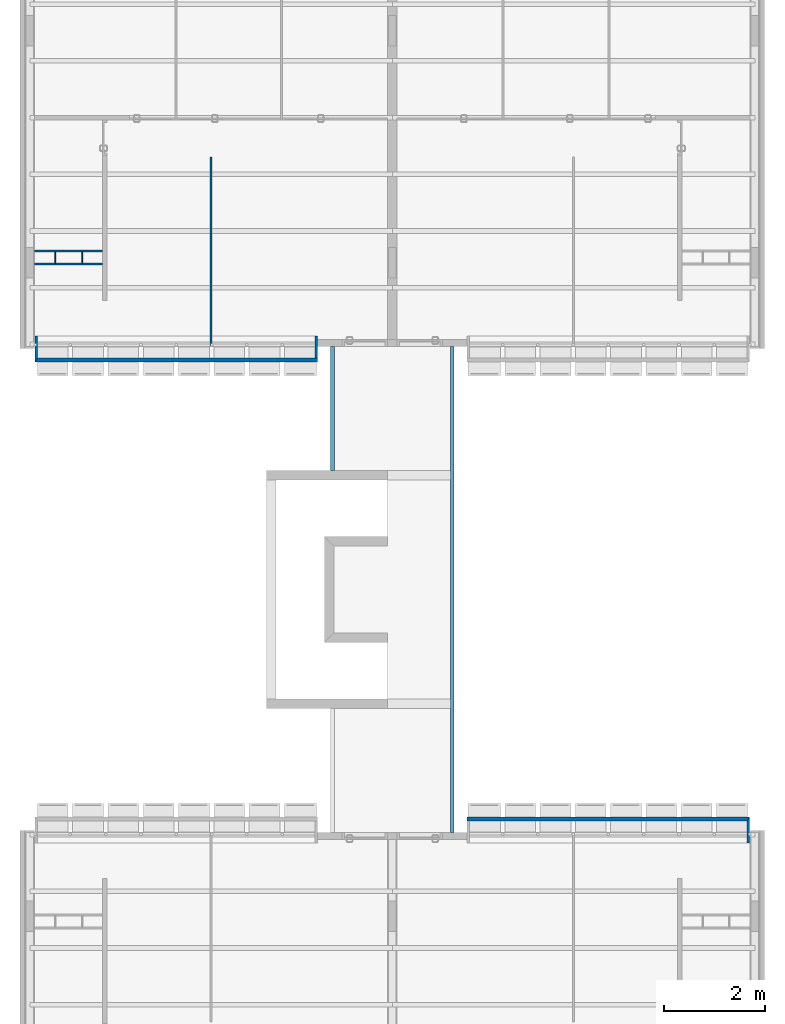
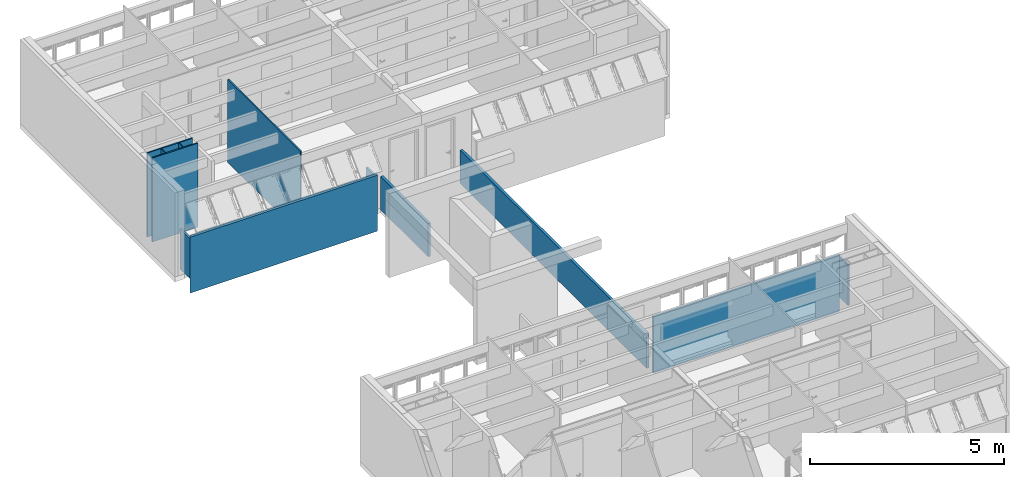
# One storey, part 30 of 40: 12 walls.
"""IFC4 building model written with IfcOpenShell, lengths in millimetres."""

from ifc_helpers import new_model, entity, si_unit, converted_unit, derived_unit, direction, frame, origin_with_axes, place, context, subcontext, project, spatial, line, indexed_curve, outline, extrude, material, layer, layer_set, layer_usage, type_object, element, save


model = new_model("IFC4")

# Units and contexts
model_context = context("Model", 3, precision=0.01, world=origin_with_axes(), true_north=direction((0.0, 1.0)))
body_context = subcontext(model_context, "Body", "Model", "MODEL_VIEW")
ifc_project = project(units=[si_unit("LENGTHUNIT", "METRE", prefix="MILLI"), si_unit("AREAUNIT", "SQUARE_METRE"), si_unit("VOLUMEUNIT", "CUBIC_METRE"), converted_unit("PLANEANGLEUNIT", "DEGREE", entity("IfcPlaneAngleMeasure", 0.0174532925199), si_unit("PLANEANGLEUNIT", "RADIAN"), dimensions=[0, 0, 0, 0, 0, 0, 0]), converted_unit("TIMEUNIT", "Year", entity("IfcTimeMeasure", 31556926.0), si_unit("TIMEUNIT", "SECOND"), dimensions=[0, 0, 1, 0, 0, 0, 0]), si_unit("MASSUNIT", "GRAM", prefix="KILO"), si_unit("THERMODYNAMICTEMPERATUREUNIT", "DEGREE_CELSIUS"), si_unit("LUMINOUSINTENSITYUNIT", "LUMEN"), si_unit("ENERGYUNIT", "JOULE", prefix="MEGA"), derived_unit("THERMALCONDUCTANCEUNIT", [(si_unit("POWERUNIT", "WATT"), 1), (si_unit("LENGTHUNIT", "METRE"), -1), (si_unit("THERMODYNAMICTEMPERATUREUNIT", "KELVIN"), -1)]), derived_unit("SPECIFICHEATCAPACITYUNIT", [(si_unit("ENERGYUNIT", "JOULE"), 1), (si_unit("MASSUNIT", "GRAM", prefix="KILO"), -1), (si_unit("THERMODYNAMICTEMPERATUREUNIT", "KELVIN"), -1)]), derived_unit("MASSDENSITYUNIT", [(si_unit("MASSUNIT", "GRAM", prefix="KILO"), 1), (si_unit("VOLUMEUNIT", "CUBIC_METRE"), -1)])], contexts=[model_context])

# Site, building, storey
site_placement = place(None, origin_with_axes())
site = spatial("IfcSite", under=ifc_project, at=site_placement, Name="Local", CompositionType="ELEMENT")
building_placement = place(site_placement, origin_with_axes())
building = spatial("IfcBuilding", under=site, at=building_placement, Name="Construção", CompositionType="ELEMENT")
storey_placement = place(building_placement, frame((0.0, 0.0, 5300.0), z_axis=(0.0, 0.0, 1.0), x_axis=(1.0, 0.0, 0.0)))
storey = spatial("IfcBuildingStorey", under=building, at=storey_placement, Name="Terceiro Pavimento", CompositionType="ELEMENT", Elevation=5300.0)

# Walls
ifc_material_1 = material(Name="GENÉRICO - VEDAÇÃO EXTERNA")
ifc_layer_1 = layer(ifc_material_1, 40.0, ventilated="UNKNOWN", Name="GENÉRICO - VEDAÇÃO EXTERNA")
ifc_layer_set_1 = layer_set([ifc_layer_1], Name="GENÉRICO - VEDAÇÃO EXTERNA 40")
ifc_layer_usage_1 = layer_usage(ifc_layer_set_1, "AXIS2", "POSITIVE", -40.0)
wall_type_1 = type_object("IfcWallType", Name="GENÉRICO - VEDAÇÃO EXTERNA 40", PredefinedType="NOTDEFINED")
wall_1_placement = place(storey_placement, frame((3810.0, 21655.0, 0.0), z_axis=(0.0, 0.0, 1.0), x_axis=(0.0, -1.0, 0.0)))
element("IfcWall", 1, at=wall_1_placement, inside=storey, type_object=wall_type_1, material=ifc_layer_usage_1, Name="APTO11-PAREDE-003", PredefinedType="NOTDEFINED", context=body_context, shape_type="SweptSolid", body=[
    extrude(outline(indexed_curve([(0.0, -40.0), (3750.0, -40.0), (3750.0, 0.0), (0.0, 0.0)], segments=[line(1, 2, 3, 4, 1)])), origin_with_axes(), (0.0, 0.0, 1.0), 2620.0),
])
ifc_layer_usage_2 = layer_usage(ifc_layer_set_1, "AXIS2", "POSITIVE", -40.0)
wall_2_placement = place(storey_placement, frame((290.0, 19815.0, 0.0), z_axis=(0.0, 0.0, 1.0), x_axis=(1.0, 0.0, 0.0)))
element("IfcWall", 2, at=wall_2_placement, inside=storey, type_object=wall_type_1, material=ifc_layer_usage_2, Name="APTO11-PAREDE-011", PredefinedType="NOTDEFINED", context=body_context, shape_type="SweptSolid", body=[
    extrude(outline(indexed_curve([(0.0, -40.0), (1350.0, -40.0), (1350.0, 0.0), (0.0, 0.0)], segments=[line(1, 2, 3, 4, 1)])), origin_with_axes(), (0.0, 0.0, 1.0), 2650.0),
])
ifc_layer_usage_3 = layer_usage(ifc_layer_set_1, "AXIS2", "POSITIVE", -40.0)
wall_3_placement = place(storey_placement, frame((1730.0, 19515.0, 0.0), z_axis=(0.0, 0.0, 1.0), x_axis=(-1.0, 0.0, 0.0)))
element("IfcWall", 3, at=wall_3_placement, inside=storey, type_object=wall_type_1, material=ifc_layer_usage_3, Name="APTO11-PAREDE-010", PredefinedType="NOTDEFINED", context=body_context, shape_type="SweptSolid", body=[
    extrude(outline(indexed_curve([(90.0, -40.0), (1440.0, -40.0), (1440.0, 0.0), (90.0, 0.0)], segments=[line(1, 2, 3, 4, 1)])), origin_with_axes(), (0.0, 0.0, 1.0), 2650.0),
])
ifc_material_2 = material(Name="Concreto Armado Moldado in Loco - Estrutural")
ifc_layer_2 = layer(ifc_material_2, 50.0, ventilated="UNKNOWN", Name="Concreto Armado Moldado in Loco - Estrutural")
ifc_layer_set_2 = layer_set([ifc_layer_2], Name="Concreto Armado Moldado in Loco - Estrutural 50")
ifc_layer_usage_4 = layer_usage(ifc_layer_set_2, "AXIS2", "NEGATIVE", 50.0)
wall_type_2 = type_object("IfcWallType", Name="Concreto Armado Moldado in Loco - Estrutural 50", PredefinedType="NOTDEFINED")
wall_4_placement = place(storey_placement, frame((14470.0, 8054.99999866, 0.0), z_axis=(0.0, 0.0, 1.0), x_axis=(0.0, 1.0, 0.0)))
element("IfcWall", 4, at=wall_4_placement, inside=storey, type_object=wall_type_2, material=ifc_layer_usage_4, Name="APTO10-PAREDE-018", PredefinedType="NOTDEFINED", context=body_context, shape_type="SweptSolid", body=[
    extrude(outline(indexed_curve([(0.0, 0.0), (510.0, 0.0), (430.0, 50.0), (0.0, 50.0)], segments=[line(1, 2, 3, 4, 1)])), origin_with_axes(), (0.0, 0.0, 1.0), 1270.0),
])
ifc_layer_usage_5 = layer_usage(ifc_layer_set_2, "AXIS2", "NEGATIVE", 50.0)
wall_5_placement = place(storey_placement, frame((5850.0, 18105.0000013, 0.0), z_axis=(0.0, 0.0, 1.0), x_axis=(0.0, -1.0, 0.0)))
element("IfcWall", 5, at=wall_5_placement, inside=storey, type_object=wall_type_2, material=ifc_layer_usage_5, Name="APTO11-PAREDE-016", PredefinedType="NOTDEFINED", context=body_context, shape_type="SweptSolid", body=[
    extrude(outline(indexed_curve([(0.0, 0.0), (435.0, 0.0), (435.0, 50.0), (0.0, 50.0)], segments=[line(1, 2, 3, 4, 1)])), origin_with_axes(), (0.0, 0.0, 1.0), 1270.0),
])
ifc_layer_usage_6 = layer_usage(ifc_layer_set_2, "AXIS2", "NEGATIVE", 50.0)
wall_6_placement = place(storey_placement, frame((300.0, 18105.0000013, 0.0), z_axis=(0.0, 0.0, 1.0), x_axis=(0.0, -1.0, 0.0)))
element("IfcWall", 6, at=wall_6_placement, inside=storey, type_object=wall_type_2, material=ifc_layer_usage_6, Name="APTO11-PAREDE-018", PredefinedType="NOTDEFINED", context=body_context, shape_type="SweptSolid", body=[
    extrude(outline(indexed_curve([(0.0, 0.0), (510.0, 0.0), (430.0, 50.0), (0.0, 50.0)], segments=[line(1, 2, 3, 4, 1)])), origin_with_axes(), (0.0, 0.0, 1.0), 1270.0),
])
ifc_layer_3 = layer(ifc_material_1, 20.0, ventilated="UNKNOWN", Name="GENÉRICO - VEDAÇÃO EXTERNA")
ifc_layer_set_3 = layer_set([ifc_layer_3], Name="GENÉRICO - VEDAÇÃO EXTERNA 20")
ifc_layer_usage_7 = layer_usage(ifc_layer_set_3, "AXIS2", "POSITIVE", -20.0)
wall_type_3 = type_object("IfcWallType", Name="GENÉRICO - VEDAÇÃO EXTERNA 20", PredefinedType="NOTDEFINED")
wall_7_placement = place(storey_placement, frame((710.0, 19815.0, 0.0), z_axis=(0.0, 0.0, 1.0), x_axis=(0.0, -1.0, 0.0)))
element("IfcWall", 7, at=wall_7_placement, inside=storey, type_object=wall_type_3, material=ifc_layer_usage_7, Name="APTO11-PAREDE-009", PredefinedType="NOTDEFINED", context=body_context, shape_type="SweptSolid", body=[
    extrude(outline(indexed_curve([(40.0, -20.0), (260.0, -20.0), (260.0, 0.0), (40.0, 0.0)], segments=[line(1, 2, 3, 4, 1)])), origin_with_axes(), (0.0, 0.0, 1.0), 2650.0),
])
ifc_layer_usage_8 = layer_usage(ifc_layer_set_3, "AXIS2", "POSITIVE", 0.0)
wall_8_placement = place(storey_placement, frame((1240.0, 19515.0, 0.0), z_axis=(0.0, 0.0, 1.0), x_axis=(0.0, 1.0, 0.0)))
element("IfcWall", 8, at=wall_8_placement, inside=storey, type_object=wall_type_3, material=ifc_layer_usage_8, Name="APTO11-PAREDE-008", PredefinedType="NOTDEFINED", context=body_context, shape_type="SweptSolid", body=[
    extrude(outline(indexed_curve([(40.0, 0.0), (260.0, 0.0), (260.0, 20.0), (40.0, 20.0)], segments=[line(1, 2, 3, 4, 1)])), origin_with_axes(), (0.0, 0.0, 1.0), 2650.0),
])
ifc_layer_4 = layer(ifc_material_1, 75.0, ventilated="UNKNOWN", Name="GENÉRICO - VEDAÇÃO EXTERNA")
ifc_layer_set_4 = layer_set([ifc_layer_4], Name="GENÉRICO - VEDAÇÃO EXTERNA 75")
ifc_layer_usage_9 = layer_usage(ifc_layer_set_4, "AXIS2", "NEGATIVE", 0.0)
wall_type_4 = type_object("IfcWallType", Name="GENÉRICO - VEDAÇÃO EXTERNA 75", PredefinedType="NOTDEFINED")
wall_9_placement = place(storey_placement, frame((8610.0, 17895.0, -50.0), z_axis=(0.0, 0.0, 1.0), x_axis=(0.0, -1.0, 0.0)))
element("IfcWall", 9, at=wall_9_placement, inside=storey, type_object=wall_type_4, material=ifc_layer_usage_9, Name="CIRC3-PAREDE-036", PredefinedType="NOTDEFINED", context=body_context, shape_type="SweptSolid", body=[
    extrude(outline(indexed_curve([(0.0, -75.0), (9630.00000134, -75.0), (9630.00000134, 0.0), (0.0, 0.0)], segments=[line(1, 2, 3, 4, 1)])), origin_with_axes(), (0.0, 0.0, 1.0), 1050.0),
])
ifc_layer_usage_10 = layer_usage(ifc_layer_set_4, "AXIS2", "NEGATIVE", 0.0)
wall_10_placement = place(storey_placement, frame((6160.0, 15440.0, -50.0), z_axis=(0.0, 0.0, 1.0), x_axis=(0.0, 1.0, 0.0)))
element("IfcWall", 10, at=wall_10_placement, inside=storey, type_object=wall_type_4, material=ifc_layer_usage_10, Name="CIRC3-PAREDE-037", PredefinedType="NOTDEFINED", context=body_context, shape_type="SweptSolid", body=[
    extrude(outline(indexed_curve([(0.0, -75.0), (2455.0, -75.0), (2455.0, 0.0), (0.0, 0.0)], segments=[line(1, 2, 3, 4, 1)])), origin_with_axes(), (0.0, 0.0, 1.0), 1050.0),
])
ifc_layer_5 = layer(ifc_material_2, 80.0, ventilated="UNKNOWN", Name="Concreto Armado Moldado in Loco - Estrutural")
ifc_layer_set_5 = layer_set([ifc_layer_5], Name="Concreto Armado Moldado in Loco - Estrutural 80")
ifc_layer_usage_11 = layer_usage(ifc_layer_set_5, "AXIS2", "POSITIVE", -80.0)
wall_type_5 = type_object("IfcWallType", Name="Concreto Armado Moldado in Loco - Estrutural 80", PredefinedType="NOTDEFINED")
wall_11_placement = place(storey_placement, frame((14470.0, 8484.99999866, -450.0), z_axis=(0.0, 0.0, 1.0), x_axis=(-1.0, 0.0, 0.0)))
element("IfcWall", 11, at=wall_11_placement, inside=storey, type_object=wall_type_5, material=ifc_layer_usage_11, Name="APTO10-PAREDE-017", PredefinedType="NOTDEFINED", context=body_context, shape_type="SweptSolid", body=[
    extrude(outline(indexed_curve([(0.0, -80.0), (5600.0, -80.0), (5600.0, 0.0), (50.0, 0.0)], segments=[line(1, 2, 3, 4, 1)])), origin_with_axes(), (0.0, 0.0, 1.0), 1765.0),
])
ifc_layer_usage_12 = layer_usage(ifc_layer_set_5, "AXIS2", "POSITIVE", -80.0)
wall_12_placement = place(storey_placement, frame((300.0, 17675.0000013, -450.0), z_axis=(0.0, 0.0, 1.0), x_axis=(1.0, 0.0, 0.0)))
element("IfcWall", 12, at=wall_12_placement, inside=storey, type_object=wall_type_5, material=ifc_layer_usage_12, Name="APTO11-PAREDE-017", PredefinedType="NOTDEFINED", context=body_context, shape_type="SweptSolid", body=[
    extrude(outline(indexed_curve([(0.0, -80.0), (5600.0, -80.0), (5600.0, 0.0), (50.0, 0.0)], segments=[line(1, 2, 3, 4, 1)])), origin_with_axes(), (0.0, 0.0, 1.0), 1765.0),
])

save(model, "model.ifc")
